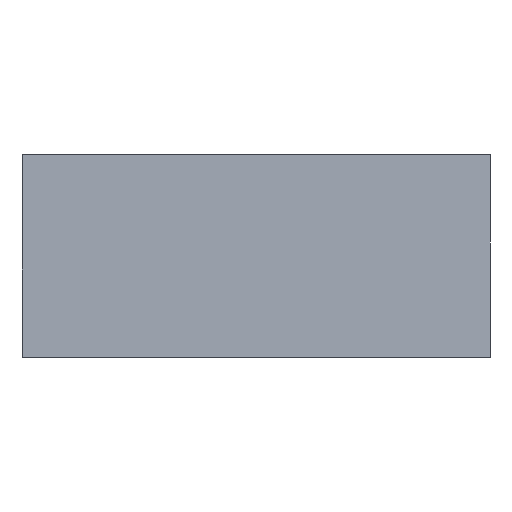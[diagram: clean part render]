
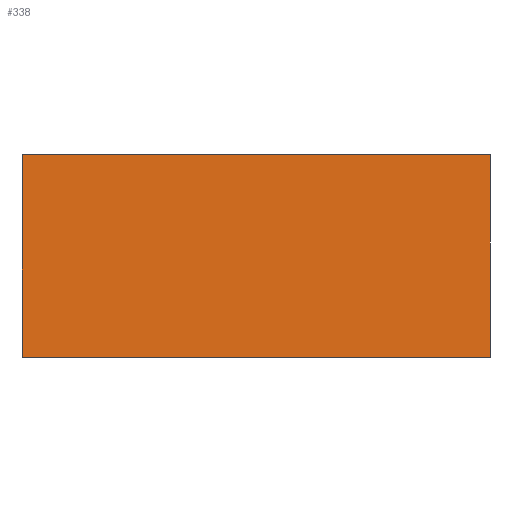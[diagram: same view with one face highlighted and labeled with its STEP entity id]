
A CAD part, top view. The second image highlights one B-rep face of the part: STEP entity #338.
In plain terms, the highlighted planar face has unit normal (0.078, 0, 0.997).
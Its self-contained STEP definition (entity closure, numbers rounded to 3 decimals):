
#24 = VERTEX_POINT('',#25);
#25 = CARTESIAN_POINT('',(177.37,-138.913,
    33.98));
#32 = PLANE('',#33);
#33 = AXIS2_PLACEMENT_3D('',#34,#35,#36);
#34 = CARTESIAN_POINT('',(177.358,-138.913,
    33.83));
#35 = DIRECTION('',(0.,1.,0.));
#36 = DIRECTION('',(0.997,0.,-0.078));
#44 = PLANE('',#45);
#45 = AXIS2_PLACEMENT_3D('',#46,#47,#48);
#46 = CARTESIAN_POINT('',(177.358,-94.913,
    33.83));
#47 = DIRECTION('',(0.997,0.,-0.078));
#48 = DIRECTION('',(0.,-1.,0.));
#56 = EDGE_CURVE('',#24,#57,#59,.T.);
#57 = VERTEX_POINT('',#58);
#58 = CARTESIAN_POINT('',(279.057,-138.913,
    25.992));
#59 = SURFACE_CURVE('',#60,(#64,#71),.PCURVE_S1.);
#60 = LINE('',#61,#62);
#61 = CARTESIAN_POINT('',(177.37,-138.913,
    33.98));
#62 = VECTOR('',#63,1.);
#63 = DIRECTION('',(0.997,0.,-0.078));
#64 = PCURVE('',#32,#65);
#65 = DEFINITIONAL_REPRESENTATION('',(#66),#70);
#66 = LINE('',#67,#68);
#67 = CARTESIAN_POINT('',(0.,-0.15));
#68 = VECTOR('',#69,1.);
#69 = DIRECTION('',(1.,0.));
#70 = ( GEOMETRIC_REPRESENTATION_CONTEXT(2) 
PARAMETRIC_REPRESENTATION_CONTEXT() REPRESENTATION_CONTEXT('2D SPACE',''
  ) );
#71 = PCURVE('',#72,#77);
#72 = PLANE('',#73);
#73 = AXIS2_PLACEMENT_3D('',#74,#75,#76);
#74 = CARTESIAN_POINT('',(228.213,-116.913,
    29.986));
#75 = DIRECTION('',(0.078,0.,0.997));
#76 = DIRECTION('',(0.997,0.,-0.078));
#77 = DEFINITIONAL_REPRESENTATION('',(#78),#82);
#78 = LINE('',#79,#80);
#79 = CARTESIAN_POINT('',(-51.,-22.));
#80 = VECTOR('',#81,1.);
#81 = DIRECTION('',(1.,0.));
#82 = ( GEOMETRIC_REPRESENTATION_CONTEXT(2) 
PARAMETRIC_REPRESENTATION_CONTEXT() REPRESENTATION_CONTEXT('2D SPACE',''
  ) );
#100 = PLANE('',#101);
#101 = AXIS2_PLACEMENT_3D('',#102,#103,#104);
#102 = CARTESIAN_POINT('',(279.045,-138.913,
    25.842));
#103 = DIRECTION('',(-0.997,0.,0.078));
#104 = DIRECTION('',(0.,1.,0.));
#142 = EDGE_CURVE('',#57,#143,#145,.T.);
#143 = VERTEX_POINT('',#144);
#144 = CARTESIAN_POINT('',(279.057,-94.913,
    25.992));
#145 = SURFACE_CURVE('',#146,(#150,#157),.PCURVE_S1.);
#146 = LINE('',#147,#148);
#147 = CARTESIAN_POINT('',(279.057,-138.913,
    25.992));
#148 = VECTOR('',#149,1.);
#149 = DIRECTION('',(0.,1.,0.));
#150 = PCURVE('',#100,#151);
#151 = DEFINITIONAL_REPRESENTATION('',(#152),#156);
#152 = LINE('',#153,#154);
#153 = CARTESIAN_POINT('',(0.,-0.15));
#154 = VECTOR('',#155,1.);
#155 = DIRECTION('',(1.,0.));
#156 = ( GEOMETRIC_REPRESENTATION_CONTEXT(2) 
PARAMETRIC_REPRESENTATION_CONTEXT() REPRESENTATION_CONTEXT('2D SPACE',''
  ) );
#157 = PCURVE('',#72,#158);
#158 = DEFINITIONAL_REPRESENTATION('',(#159),#163);
#159 = LINE('',#160,#161);
#160 = CARTESIAN_POINT('',(51.,-22.));
#161 = VECTOR('',#162,1.);
#162 = DIRECTION('',(0.,1.));
#163 = ( GEOMETRIC_REPRESENTATION_CONTEXT(2) 
PARAMETRIC_REPRESENTATION_CONTEXT() REPRESENTATION_CONTEXT('2D SPACE',''
  ) );
#181 = PLANE('',#182);
#182 = AXIS2_PLACEMENT_3D('',#183,#184,#185);
#183 = CARTESIAN_POINT('',(279.045,-94.913,
    25.842));
#184 = DIRECTION('',(-0.,-1.,0.));
#185 = DIRECTION('',(-0.997,0.,0.078));
#218 = EDGE_CURVE('',#143,#219,#221,.T.);
#219 = VERTEX_POINT('',#220);
#220 = CARTESIAN_POINT('',(177.37,-94.913,
    33.98));
#221 = SURFACE_CURVE('',#222,(#226,#233),.PCURVE_S1.);
#222 = LINE('',#223,#224);
#223 = CARTESIAN_POINT('',(279.057,-94.913,
    25.992));
#224 = VECTOR('',#225,1.);
#225 = DIRECTION('',(-0.997,0.,0.078));
#226 = PCURVE('',#181,#227);
#227 = DEFINITIONAL_REPRESENTATION('',(#228),#232);
#228 = LINE('',#229,#230);
#229 = CARTESIAN_POINT('',(0.,-0.15));
#230 = VECTOR('',#231,1.);
#231 = DIRECTION('',(1.,0.));
#232 = ( GEOMETRIC_REPRESENTATION_CONTEXT(2) 
PARAMETRIC_REPRESENTATION_CONTEXT() REPRESENTATION_CONTEXT('2D SPACE',''
  ) );
#233 = PCURVE('',#72,#234);
#234 = DEFINITIONAL_REPRESENTATION('',(#235),#239);
#235 = LINE('',#236,#237);
#236 = CARTESIAN_POINT('',(51.,22.));
#237 = VECTOR('',#238,1.);
#238 = DIRECTION('',(-1.,0.));
#239 = ( GEOMETRIC_REPRESENTATION_CONTEXT(2) 
PARAMETRIC_REPRESENTATION_CONTEXT() REPRESENTATION_CONTEXT('2D SPACE',''
  ) );
#289 = EDGE_CURVE('',#219,#24,#290,.T.);
#290 = SURFACE_CURVE('',#291,(#295,#302),.PCURVE_S1.);
#291 = LINE('',#292,#293);
#292 = CARTESIAN_POINT('',(177.37,-94.913,
    33.98));
#293 = VECTOR('',#294,1.);
#294 = DIRECTION('',(0.,-1.,0.));
#295 = PCURVE('',#44,#296);
#296 = DEFINITIONAL_REPRESENTATION('',(#297),#301);
#297 = LINE('',#298,#299);
#298 = CARTESIAN_POINT('',(0.,-0.15));
#299 = VECTOR('',#300,1.);
#300 = DIRECTION('',(1.,0.));
#301 = ( GEOMETRIC_REPRESENTATION_CONTEXT(2) 
PARAMETRIC_REPRESENTATION_CONTEXT() REPRESENTATION_CONTEXT('2D SPACE',''
  ) );
#302 = PCURVE('',#72,#303);
#303 = DEFINITIONAL_REPRESENTATION('',(#304),#308);
#304 = LINE('',#305,#306);
#305 = CARTESIAN_POINT('',(-51.,22.));
#306 = VECTOR('',#307,1.);
#307 = DIRECTION('',(0.,-1.));
#308 = ( GEOMETRIC_REPRESENTATION_CONTEXT(2) 
PARAMETRIC_REPRESENTATION_CONTEXT() REPRESENTATION_CONTEXT('2D SPACE',''
  ) );
#338 = ADVANCED_FACE('',(#339),#72,.T.);
#339 = FACE_BOUND('',#340,.T.);
#340 = EDGE_LOOP('',(#341,#342,#343,#344));
#341 = ORIENTED_EDGE('',*,*,#56,.T.);
#342 = ORIENTED_EDGE('',*,*,#142,.T.);
#343 = ORIENTED_EDGE('',*,*,#218,.T.);
#344 = ORIENTED_EDGE('',*,*,#289,.T.);
